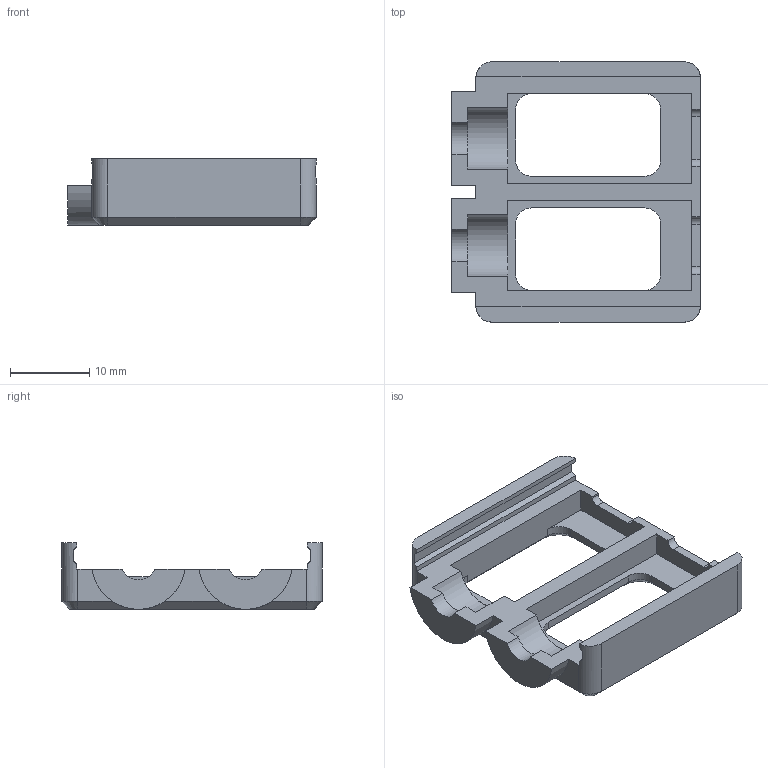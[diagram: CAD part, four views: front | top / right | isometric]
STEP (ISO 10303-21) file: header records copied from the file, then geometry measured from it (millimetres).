
FILE_DESCRIPTION(/* description */ ('STEP AP242','CAx-IF Rec.Pracs.---Representation and Presentation of Product Manufacturing Information (PMI)---4.0---2014-10-13','CAx-IF Rec.Pracs.---3D Tessellated Geometry---0.4---2014-09-14','2;1'),/* implementation_level */ '2;1');
FILE_NAME(/* name */ '687e6c03f344454910d48202',/* time_stamp */ '2025-07-21T16:34:12Z',/* author */ (''),/* organization */ (''),/* preprocessor_version */ 'ST-DEVELOPER v20',/* originating_system */ 'ONSHAPE BY PTC INC, 1.201',/* authorisation */ ' ');
FILE_SCHEMA (('AP242_MANAGED_MODEL_BASED_3D_ENGINEERING_MIM_LF { 1 0 10303 442 1 1 4 }'));
Length unit declared in the file: metre
Products named in the file (1): HDMI Cover
Bounding box: 31.34 x 32.8 x 8.39 mm (x, y, z)
Volume: 2585.1 mm3; surface area: 2801.3 mm2
Topology: 1 solids, 1 shells, 95 faces, 257 edges, 162 vertices
Faces by surface type: plane 61, cylinder 22, cone 12
Entity records: 2993 total; most frequent: DIRECTION 525, CARTESIAN_POINT 515, ORIENTED_EDGE 514, EDGE_CURVE 257, LINE 181, VECTOR 181, AXIS2_PLACEMENT_3D 172, VERTEX_POINT 162
